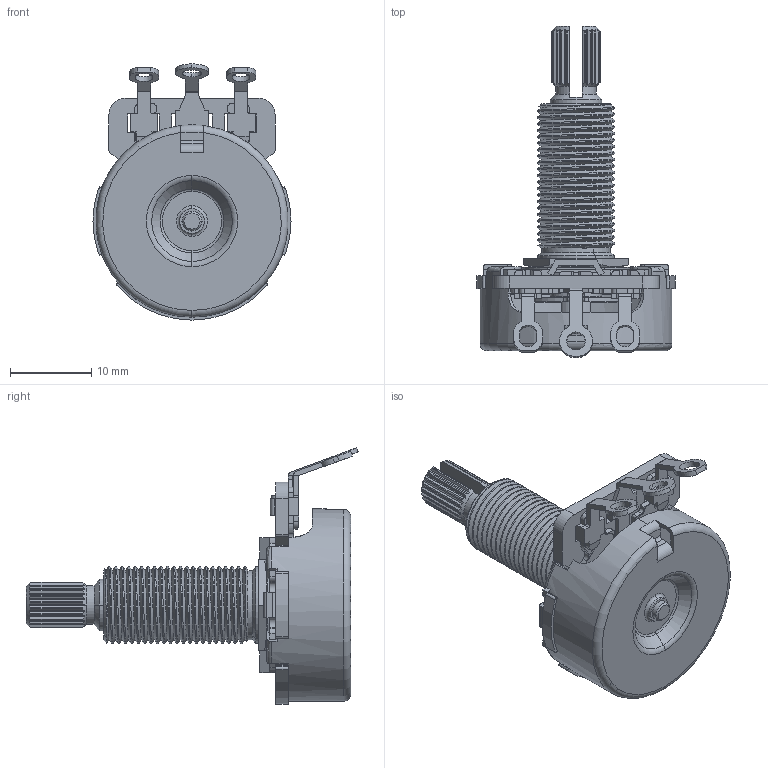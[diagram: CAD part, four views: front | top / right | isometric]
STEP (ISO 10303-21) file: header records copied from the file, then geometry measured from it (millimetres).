
FILE_DESCRIPTION (( 'STEP AP214' ), '1' );
FILE_NAME ('450GT69K504A7L.STEP', '2019-05-27T01:44:54', ( '' ), ( '' ), 'SwSTEP 2.0', 'SolidWorks 2019', '' );
FILE_SCHEMA (( 'AUTOMOTIVE_DESIGN' ));
Length unit declared in the file: millimetre
Products named in the file (10): 450GT69K504A7L; 45Q_18(formed); T450AEDF(For 104G); 450A-104G; 450 element; 45C-2T-no lug; 450D-17 for T450AEDF; 2-450B-50; 450F-23 for T450AEDF; C450S-DL-11763-36
Assembly tree (10 placements, depth 3):
  450GT69K504A7L
    45Q_18(formed)
    T450AEDF(For 104G)
      450A-104G
      450D-17 for T450AEDF
      450 element
      450F-23 for T450AEDF  x2
    45C-2T-no lug
    2-450B-50
    C450S-DL-11763-36
Bounding box: 24.33 x 40.78 x 31.47 mm (x, y, z)
Volume: 3296.9 mm3; surface area: 7628.3 mm2
Topology: 9 solids, 9 shells, 812 faces, 2269 edges, 1481 vertices
Faces by surface type: plane 452, cylinder 296, cone 32, torus 30, bspline 2
Entity records: 27373 total; most frequent: CARTESIAN_POINT 7866, ORIENTED_EDGE 4172, DIRECTION 3868, EDGE_CURVE 2086, VERTEX_POINT 1364, AXIS2_PLACEMENT_3D 1338, VECTOR 1192, LINE 1192
